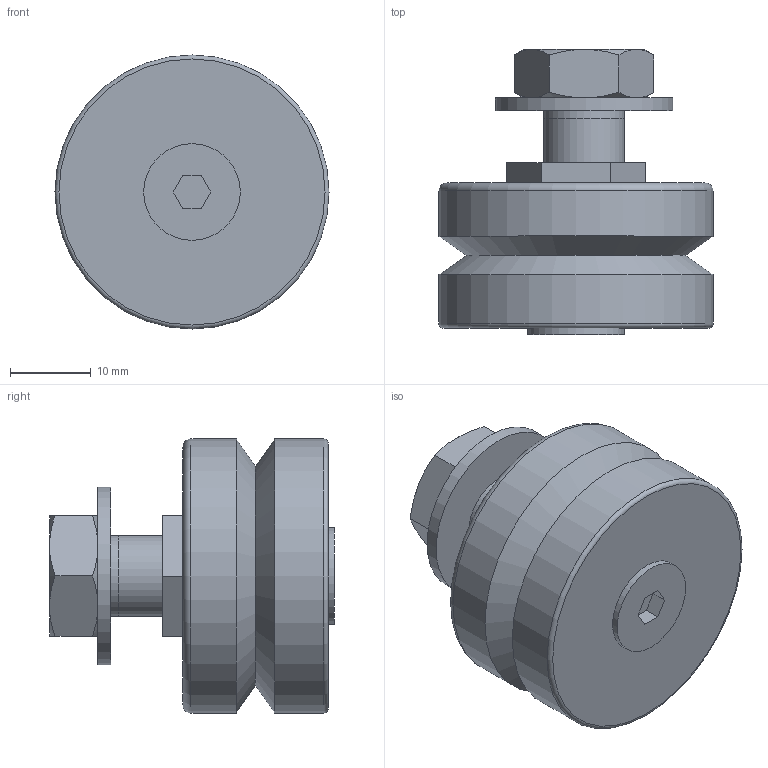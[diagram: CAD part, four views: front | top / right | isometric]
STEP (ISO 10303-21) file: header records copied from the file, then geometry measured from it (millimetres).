
FILE_DESCRIPTION(('STEP AP203'),'1');
FILE_NAME('//192.168.1.1/share/s-4 技術開発/s-4-4_CAD/s-4-4-6_見直し、確認済み/013 修正済み(済)/ジャーナル_TOP/NAS/NAS-34-E.step','2022-03-11T07:38:20',(' '),(' '),'Spatial InterOp 3D',' ',' ');
FILE_SCHEMA(('CONFIG_CONTROL_DESIGN'));
Length unit declared in the file: millimetre
Products named in the file (3): 1; 2; 3
Bounding box: 34 x 35.35 x 34 mm (x, y, z)
Volume: 18383 mm3; surface area: 6070.1 mm2
Topology: 3 solids, 3 shells, 59 faces, 129 edges, 80 vertices
Faces by surface type: plane 34, cone 14, cylinder 8, torus 2, sphere 1
Full cylindrical faces by diameter (mm): 8.5 x1, 10 x2, 10.5 x1, 12 x1, 22 x1, 34 x2
Entity records: 1740 total; most frequent: CARTESIAN_POINT 390, DIRECTION 250, ORIENTED_EDGE 228, EDGE_CURVE 114, AXIS2_PLACEMENT_3D 98, EDGE_LOOP 80, VERTEX_POINT 78, FACE_OUTER_BOUND 70
